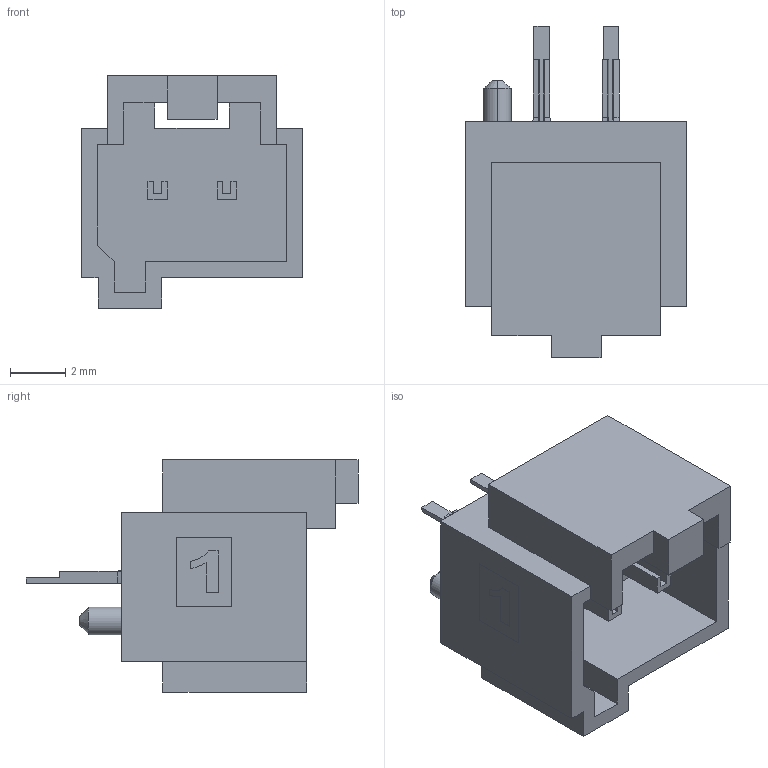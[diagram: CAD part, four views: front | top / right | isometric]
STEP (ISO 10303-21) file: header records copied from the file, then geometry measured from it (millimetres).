
FILE_DESCRIPTION((''),'2;1');
FILE_NAME('2078430002','2019-08-29T',('gga'),(''),'PRO/ENGINEER BY PARAMETRIC TECHNOLOGY CORPORATION, 2016010','PRO/ENGINEER BY PARAMETRIC TECHNOLOGY CORPORATION, 2016010','');
FILE_SCHEMA(('CONFIG_CONTROL_DESIGN'));
Length unit declared in the file: millimetre
Products named in the file (1): 2078430002
Bounding box: 8.01 x 12.01 x 8.4 mm (x, y, z)
Volume: 218.7 mm3; surface area: 515.8 mm2
Topology: 1 solids, 1 shells, 108 faces, 302 edges, 202 vertices
Faces by surface type: plane 89, bspline 12, extrusion 3, cylinder 2, cone 2
Entity records: 3715 total; most frequent: CARTESIAN_POINT 914, ORIENTED_EDGE 592, DIRECTION 505, EDGE_CURVE 296, VECTOR 281, LINE 278, VERTEX_POINT 196, EDGE_LOOP 116
